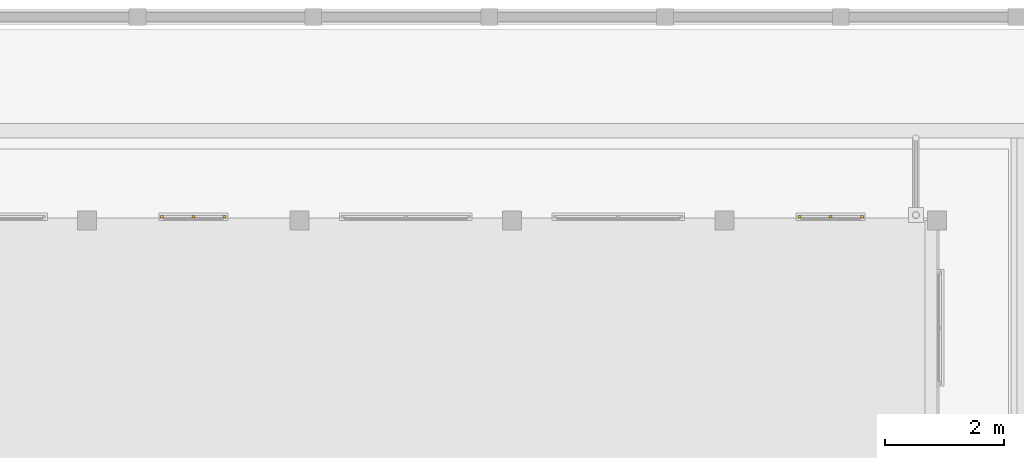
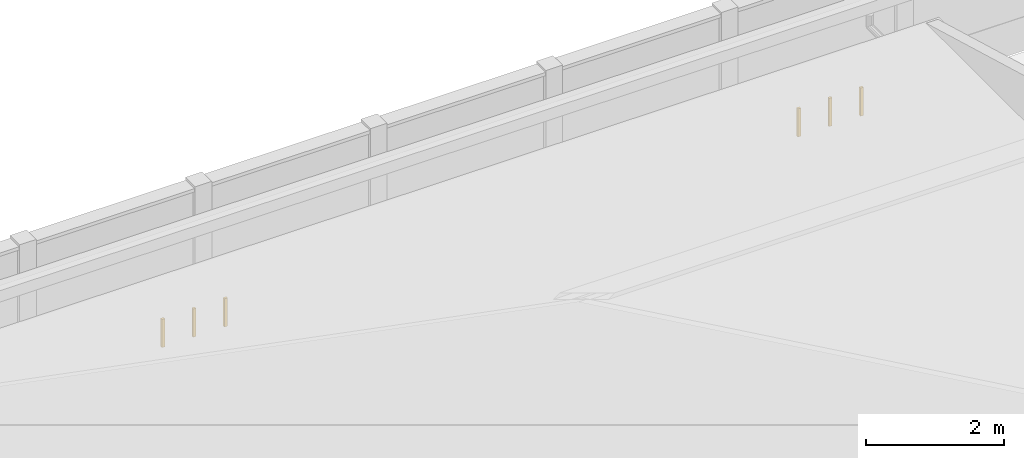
# One storey, part 91 of 177: 6 windows.
"""IFC4 building model written with IfcOpenShell, lengths in metres."""

from ifc_helpers import new_model, si_unit, origin, origin_with_axes, place, context, subcontext, project, spatial, triangles, element, save


model = new_model("IFC4")

# Units and contexts
model_context = context("Model", 3, precision=1e-05, world=origin_with_axes())
body_context = subcontext(model_context, "Body", "Model", "MODEL_VIEW")
ifc_project = project(units=[si_unit("LENGTHUNIT", "METRE"), si_unit("AREAUNIT", "SQUARE_METRE"), si_unit("VOLUMEUNIT", "CUBIC_METRE"), si_unit("PLANEANGLEUNIT", "RADIAN")], contexts=[model_context])

# Site, building, storey
site_placement = place(None, origin_with_axes())
site = spatial("IfcSite", under=ifc_project, at=site_placement, Name="Predio Los Mangos - Morales, San Martín", CompositionType="ELEMENT")
building_placement = place(site_placement, origin())
building = spatial("IfcBuilding", under=site, at=building_placement, Name="Hogar de Refugio Temporal", CompositionType="ELEMENT")
storey_placement = place(building_placement, origin())
storey = spatial("IfcBuildingStorey", under=building, at=storey_placement, Name="NIVEL 1 (NPT +0.00)", CompositionType="ELEMENT", Elevation=0.0)

# Windows
window_1_placement = place(storey_placement, origin())
element("IfcWindow", 1, at=window_1_placement, inside=storey, Name="E-08_vt1_m", ObjectType="Ventana", PredefinedType="WINDOW", context=body_context, shape_type="Tessellation", body=[
    triangles([(36.79, 127.84, 2.45), (36.84, 127.84, 2.45), (36.84, 127.88, 2.45), (36.79, 127.88, 2.45), (36.79, 127.84, 2.95), (36.84, 127.84, 2.95), (36.84, 127.88, 2.95), (36.79, 127.88, 2.95)], [[1, 4, 3], [1, 3, 2], [5, 6, 7], [5, 7, 8], [1, 2, 6], [1, 6, 5], [2, 3, 7], [2, 7, 6], [3, 4, 8], [3, 8, 7], [4, 1, 5], [4, 5, 8]]),
])
window_2_placement = place(storey_placement, origin())
element("IfcWindow", 2, at=window_2_placement, inside=storey, Name="E-08_vt1_m", ObjectType="Ventana", PredefinedType="WINDOW", context=body_context, shape_type="Tessellation", body=[
    triangles([(37.84, 127.84, 2.45), (37.89, 127.84, 2.45), (37.89, 127.88, 2.45), (37.84, 127.88, 2.45), (37.84, 127.84, 2.95), (37.89, 127.84, 2.95), (37.89, 127.88, 2.95), (37.84, 127.88, 2.95)], [[1, 4, 3], [1, 3, 2], [5, 6, 7], [5, 7, 8], [1, 2, 6], [1, 6, 5], [2, 3, 7], [2, 7, 6], [3, 4, 8], [3, 8, 7], [4, 1, 5], [4, 5, 8]]),
])
window_3_placement = place(storey_placement, origin())
element("IfcWindow", 3, at=window_3_placement, inside=storey, Name="E-08_vt1_m", ObjectType="Ventana", PredefinedType="WINDOW", context=body_context, shape_type="Tessellation", body=[
    triangles([(37.315, 127.84, 2.45), (37.365, 127.84, 2.45), (37.365, 127.88, 2.45), (37.315, 127.88, 2.45), (37.315, 127.84, 2.95), (37.365, 127.84, 2.95), (37.365, 127.88, 2.95), (37.315, 127.88, 2.95)], [[1, 4, 3], [1, 3, 2], [5, 6, 7], [5, 7, 8], [1, 2, 6], [1, 6, 5], [2, 3, 7], [2, 7, 6], [3, 4, 8], [3, 8, 7], [4, 1, 5], [4, 5, 8]]),
])
window_4_placement = place(storey_placement, origin())
element("IfcWindow", 4, at=window_4_placement, inside=storey, Name="E-08_vt4_m", ObjectType="Ventana", PredefinedType="WINDOW", context=body_context, shape_type="Tessellation", body=[
    triangles([(47.47, 127.84, 2.45), (47.52, 127.84, 2.45), (47.52, 127.88, 2.45), (47.47, 127.88, 2.45), (47.47, 127.84, 2.95), (47.52, 127.84, 2.95), (47.52, 127.88, 2.95), (47.47, 127.88, 2.95)], [[1, 4, 3], [1, 3, 2], [5, 6, 7], [5, 7, 8], [1, 2, 6], [1, 6, 5], [2, 3, 7], [2, 7, 6], [3, 4, 8], [3, 8, 7], [4, 1, 5], [4, 5, 8]]),
])
window_5_placement = place(storey_placement, origin())
element("IfcWindow", 5, at=window_5_placement, inside=storey, Name="E-08_vt4_m", ObjectType="Ventana", PredefinedType="WINDOW", context=body_context, shape_type="Tessellation", body=[
    triangles([(48.52, 127.84, 2.45), (48.57, 127.84, 2.45), (48.57, 127.88, 2.45), (48.52, 127.88, 2.45), (48.52, 127.84, 2.95), (48.57, 127.84, 2.95), (48.57, 127.88, 2.95), (48.52, 127.88, 2.95)], [[1, 4, 3], [1, 3, 2], [5, 6, 7], [5, 7, 8], [1, 2, 6], [1, 6, 5], [2, 3, 7], [2, 7, 6], [3, 4, 8], [3, 8, 7], [4, 1, 5], [4, 5, 8]]),
])
window_6_placement = place(storey_placement, origin())
element("IfcWindow", 6, at=window_6_placement, inside=storey, Name="E-08_vt4_m", ObjectType="Ventana", PredefinedType="WINDOW", context=body_context, shape_type="Tessellation", body=[
    triangles([(47.995, 127.84, 2.45), (48.045, 127.84, 2.45), (48.045, 127.88, 2.45), (47.995, 127.88, 2.45), (47.995, 127.84, 2.95), (48.045, 127.84, 2.95), (48.045, 127.88, 2.95), (47.995, 127.88, 2.95)], [[1, 4, 3], [1, 3, 2], [5, 6, 7], [5, 7, 8], [1, 2, 6], [1, 6, 5], [2, 3, 7], [2, 7, 6], [3, 4, 8], [3, 8, 7], [4, 1, 5], [4, 5, 8]]),
])

save(model, "model.ifc")
